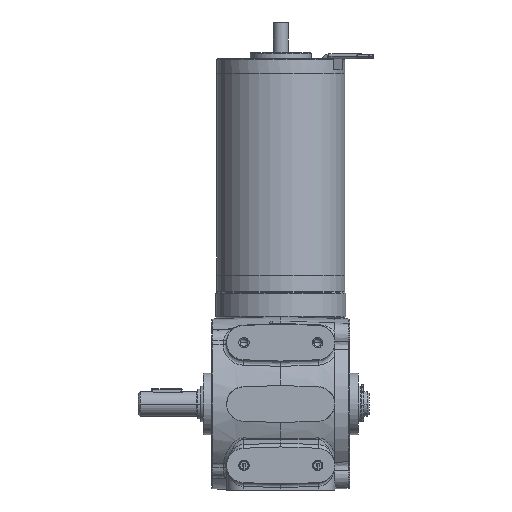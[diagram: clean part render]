
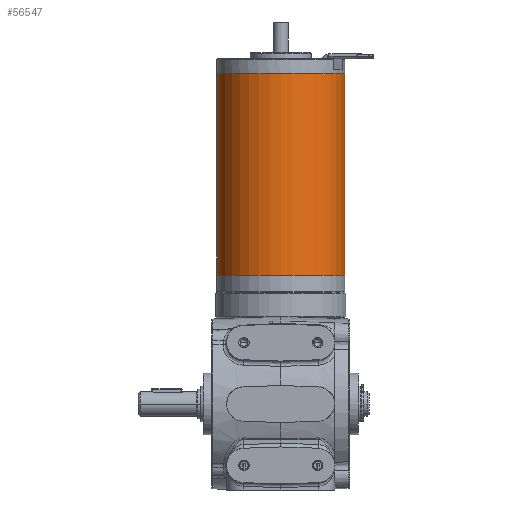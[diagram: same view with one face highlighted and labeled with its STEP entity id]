
A CAD part, front view. The second image highlights one B-rep face of the part: STEP entity #56547.
In plain terms, the highlighted cylindrical face has radius 26 mm (diameter 52 mm), a partial arc.
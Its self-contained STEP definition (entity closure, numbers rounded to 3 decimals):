
#2701 = CARTESIAN_POINT ( 'NONE',  ( -24.438, 24.785, 128.971 ) ) ;
#11324 = EDGE_LOOP ( 'NONE', ( #40884, #43339, #152070, #75194 ) ) ;
#15499 = DIRECTION ( 'NONE',  ( 0., 0., -1. ) ) ;
#16567 = CARTESIAN_POINT ( 'NONE',  ( 1.562, 24.785, 46.971 ) ) ;
#16672 = DIRECTION ( 'NONE',  ( 0., 0., -1. ) ) ;
#17706 = DIRECTION ( 'NONE',  ( 0., 0., -1. ) ) ;
#18589 = EDGE_CURVE ( 'NONE', #26068, #151183, #109191, .T. ) ;
#26068 = VERTEX_POINT ( 'NONE', #2701 ) ;
#35945 = EDGE_CURVE ( 'NONE', #140469, #151183, #60919, .T. ) ;
#37186 = CARTESIAN_POINT ( 'NONE',  ( 1.562, 24.785, 128.971 ) ) ;
#40884 = ORIENTED_EDGE ( 'NONE', *, *, #90609, .T. ) ;
#43339 = ORIENTED_EDGE ( 'NONE', *, *, #18589, .T. ) ;
#43507 = CARTESIAN_POINT ( 'NONE',  ( -24.438, 24.785, 128.971 ) ) ;
#56547 = ADVANCED_FACE ( 'NONE', ( #118105 ), #170928, .T. ) ;
#60919 = CIRCLE ( 'NONE', #102201, 26. ) ;
#65157 = CARTESIAN_POINT ( 'NONE',  ( -24.438, 24.785, 46.971 ) ) ;
#68012 = VECTOR ( 'NONE', #15499, 1000. ) ;
#71070 = DIRECTION ( 'NONE',  ( 0., 0., -1. ) ) ;
#72201 = CIRCLE ( 'NONE', #124280, 26. ) ;
#75194 = ORIENTED_EDGE ( 'NONE', *, *, #101743, .F. ) ;
#80404 = CARTESIAN_POINT ( 'NONE',  ( 27.562, 24.785, 128.971 ) ) ;
#90609 = EDGE_CURVE ( 'NONE', #157993, #26068, #72201, .T. ) ;
#93336 = LINE ( 'NONE', #80404, #68012 ) ;
#94391 = DIRECTION ( 'NONE',  ( 1., 0., 0. ) ) ;
#101743 = EDGE_CURVE ( 'NONE', #157993, #140469, #93336, .T. ) ;
#102201 = AXIS2_PLACEMENT_3D ( 'NONE', #16567, #71070, #94391 ) ;
#106266 = DIRECTION ( 'NONE',  ( 0., 0., -1. ) ) ;
#109191 = LINE ( 'NONE', #43507, #128827 ) ;
#118105 = FACE_OUTER_BOUND ( 'NONE', #11324, .T. ) ;
#124280 = AXIS2_PLACEMENT_3D ( 'NONE', #37186, #106266, #159088 ) ;
#128827 = VECTOR ( 'NONE', #16672, 1000. ) ;
#134962 = CARTESIAN_POINT ( 'NONE',  ( 27.562, 24.785, 128.971 ) ) ;
#135468 = AXIS2_PLACEMENT_3D ( 'NONE', #136241, #17706, #146634 ) ;
#136241 = CARTESIAN_POINT ( 'NONE',  ( 1.562, 24.785, 128.971 ) ) ;
#140469 = VERTEX_POINT ( 'NONE', #151087 ) ;
#146634 = DIRECTION ( 'NONE',  ( 1., 0., 0. ) ) ;
#151087 = CARTESIAN_POINT ( 'NONE',  ( 27.562, 24.785, 46.971 ) ) ;
#151183 = VERTEX_POINT ( 'NONE', #65157 ) ;
#152070 = ORIENTED_EDGE ( 'NONE', *, *, #35945, .F. ) ;
#157993 = VERTEX_POINT ( 'NONE', #134962 ) ;
#159088 = DIRECTION ( 'NONE',  ( 1., 0., 0. ) ) ;
#170928 = CYLINDRICAL_SURFACE ( 'NONE', #135468, 26. ) ;
